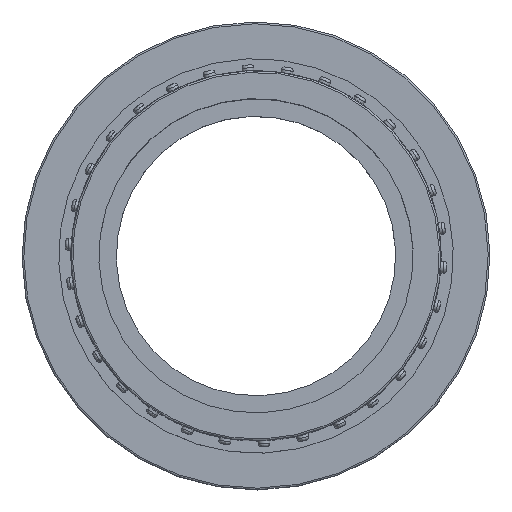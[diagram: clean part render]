
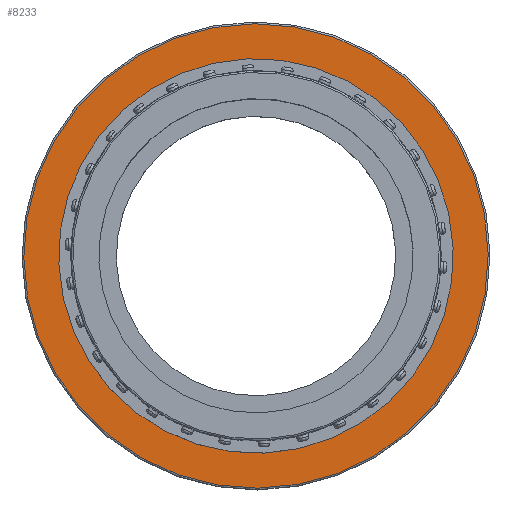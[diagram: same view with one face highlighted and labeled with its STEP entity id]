
A CAD part, top view. The second image highlights one B-rep face of the part: STEP entity #8233.
In plain terms, the highlighted planar face has unit normal (0, 0, 1).
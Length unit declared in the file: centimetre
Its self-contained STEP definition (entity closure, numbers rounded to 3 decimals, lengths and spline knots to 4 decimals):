
#1710=FACE_BOUND('',#2187,.T.);
#1738=FACE_OUTER_BOUND('',#2186,.T.);
#2186=EDGE_LOOP('',(#5140));
#2187=EDGE_LOOP('',(#5141));
#2662=CIRCLE('',#8686,6.65);
#2663=CIRCLE('',#8687,5.65);
#3108=VERTEX_POINT('',#11851);
#3109=VERTEX_POINT('',#11853);
#3914=EDGE_CURVE('',#3108,#3108,#2662,.T.);
#3915=EDGE_CURVE('',#3109,#3109,#2663,.T.);
#5140=ORIENTED_EDGE('',*,*,#3914,.F.);
#5141=ORIENTED_EDGE('',*,*,#3915,.F.);
#7592=PLANE('',#8685);
#8233=ADVANCED_FACE('',(#1738,#1710),#7592,.T.);
#8685=AXIS2_PLACEMENT_3D('',#11850,#9521,#9522);
#8686=AXIS2_PLACEMENT_3D('',#11852,#9523,#9524);
#8687=AXIS2_PLACEMENT_3D('',#11854,#9525,#9526);
#9521=DIRECTION('center_axis',(0.,0.,
1.));
#9522=DIRECTION('ref_axis',(-0.493,-0.87,0.));
#9523=DIRECTION('center_axis',(0.,0.,
-1.));
#9524=DIRECTION('ref_axis',(0.87,-0.493,0.));
#9525=DIRECTION('center_axis',(0.,0.,
1.));
#9526=DIRECTION('ref_axis',(0.537,-0.844,0.));
#11850=CARTESIAN_POINT('Origin',(-5.8274,3.3063,2.89));
#11851=CARTESIAN_POINT('',(-5.7839,3.2816,2.89));
#11852=CARTESIAN_POINT('Origin',(0.,0.,
2.89));
#11853=CARTESIAN_POINT('',(-3.0321,4.7675,2.89));
#11854=CARTESIAN_POINT('Origin',(0.,0.,
2.89));
